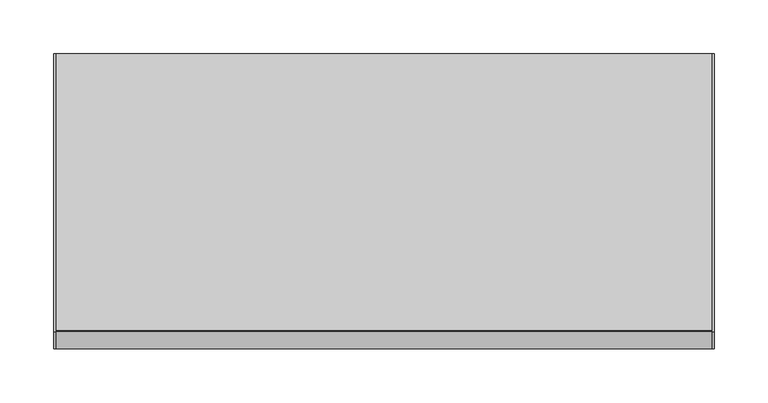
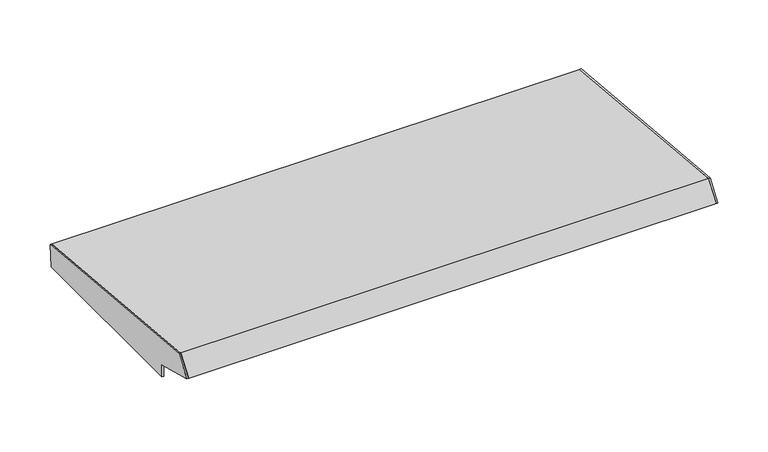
"""IFC4 building model written with IfcOpenShell, lengths in millimetres: electric distribution board geometry, DKC_Защитный козырек : DKC_Защитный козырек."""

import ifcopenshell
import ifcopenshell.guid

model = None  # the IFC model being written
_history = None  # IfcOwnerHistory: only IFC2X3 demands one
_inside = {}  # id of a spatial element -> (the spatial element, [elements in it])
_under = {}  # id of a project, library or spatial element -> (it, [spatial elements below it])
_declared = {}  # id of a project -> (the project, [libraries it declares])
_typed = {}  # id of a type object -> (the type object, [elements of that type])
_made_of = {}  # id of a material, layer set ... -> (it, [elements and type objects made of it])


def new_model(schema):
    """Start an empty IFC model of exactly this schema.

    Asked for "IFC4X3", IfcOpenShell would pick the latest addendum, in which some entities
    have other attributes; the version numbers below select the first issue.
    IFC2X3 requires an IfcOwnerHistory on every rooted entity: one is made here for all.
    """
    global model, _history
    if schema == "IFC4X3":
        model = ifcopenshell.file(schema_version=(4, 3, 0, 0))
    else:
        model = ifcopenshell.file(schema=schema)
    _inside.clear()
    _under.clear()
    _declared.clear()
    _typed.clear()
    _made_of.clear()
    _history = None
    if model.schema == "IFC2X3":
        org = make("IfcOrganization", Name="unknown")
        user = make(
            "IfcPersonAndOrganization",
            ThePerson=make("IfcPerson", FamilyName="unknown"),
            TheOrganization=org,
        )
        app = make(
            "IfcApplication",
            ApplicationDeveloper=org,
            Version="unknown",
            ApplicationFullName="unknown",
            ApplicationIdentifier="unknown",
        )
        _history = make(
            "IfcOwnerHistory",
            OwningUser=user,
            OwningApplication=app,
            ChangeAction="ADDED",
            CreationDate=0,
        )
    return model


def make(cls, **values):
    """One entity of the class cls with the attributes given. An attribute that is None is left unset."""
    return model.create_entity(
        cls, **{name: value for name, value in values.items() if value is not None}
    )


def rooted(cls, **values):
    """An entity with a GlobalId (a new one), such as an element, a storey or a relation."""
    return make(cls, GlobalId=ifcopenshell.guid.new(), OwnerHistory=_history, **values)


def si_unit(unit_type, name, prefix=None):
    """IfcSIUnit, for example si_unit("LENGTHUNIT", "METRE", prefix="MILLI")."""
    return make("IfcSIUnit", UnitType=unit_type, Prefix=prefix, Name=name)


def assignment(units):
    """IfcUnitAssignment: the units of a project."""
    return None if units is None else make("IfcUnitAssignment", Units=units)


def point(xyz):
    """IfcCartesianPoint."""
    return None if xyz is None else make("IfcCartesianPoint", Coordinates=xyz)


def direction(xyz):
    """IfcDirection."""
    return None if xyz is None else make("IfcDirection", DirectionRatios=xyz)


def frame(location, z_axis=None, x_axis=None):
    """IfcAxis2Placement3D, a coordinate frame: its origin and axes. An axis left out is left unset."""
    return make(
        "IfcAxis2Placement3D",
        Location=point(location),
        Axis=direction(z_axis),
        RefDirection=direction(x_axis),
    )


def origin():
    """The frame at (0, 0, 0) with its axes left unset."""
    return frame((0.0, 0.0, 0.0))


def place(relative_to, where):
    """IfcLocalPlacement: puts the frame where relative to a parent placement (None: the world)."""
    return make(
        "IfcLocalPlacement", PlacementRelTo=relative_to, RelativePlacement=where
    )


def context(
    kind, dimensions, precision=None, world=None, true_north=None, identifier=None
):
    """IfcGeometricRepresentationContext, for example the 3D "Model" context."""
    return make(
        "IfcGeometricRepresentationContext",
        ContextIdentifier=identifier,
        ContextType=kind,
        CoordinateSpaceDimension=dimensions,
        Precision=precision,
        WorldCoordinateSystem=world,
        TrueNorth=true_north,
    )


def project(units=None, contexts=None):
    """IfcProject with its units and contexts."""
    return rooted(
        "IfcProject",
        Name="project",
        RepresentationContexts=contexts,
        UnitsInContext=assignment(units),
    )


def spatial(cls, under=None, at=None, **own):
    """A site, building, storey or space (cls), placed at a placement, below another one or the project."""
    s = rooted(cls, ObjectPlacement=at, **own)
    if under is not None:
        _under.setdefault(under.id(), (under, []))[1].append(s)
    return s


def polyline(points):
    """IfcPolyline through the points."""
    return make("IfcPolyline", Points=[point(p) for p in points])


def outline(outer, holes=None, kind="AREA"):
    """IfcArbitraryClosedProfileDef: a profile drawn as a closed curve; with holes, ...WithVoids."""
    if holes is None:
        return make("IfcArbitraryClosedProfileDef", ProfileType=kind, OuterCurve=outer)
    return make(
        "IfcArbitraryProfileDefWithVoids",
        ProfileType=kind,
        OuterCurve=outer,
        InnerCurves=holes,
    )


def extrude(swept, where, along, depth):
    """IfcExtrudedAreaSolid: the profile swept, set in the frame where, extruded along a direction by depth."""
    return make(
        "IfcExtrudedAreaSolid",
        SweptArea=swept,
        Position=where,
        ExtrudedDirection=direction(along),
        Depth=depth,
    )


def shape(context_of_items, identifier, shape_type, items):
    """IfcShapeRepresentation: the items that make up one representation, for example the "Body"."""
    return make(
        "IfcShapeRepresentation",
        ContextOfItems=context_of_items,
        RepresentationIdentifier=identifier,
        RepresentationType=shape_type,
        Items=items,
    )


def source(mapping_origin, context_of_items, identifier, shape_type, items):
    """IfcRepresentationMap: a shape defined once, which mapped items show again and again."""
    return make(
        "IfcRepresentationMap",
        MappingOrigin=mapping_origin,
        MappedRepresentation=shape(context_of_items, identifier, shape_type, items),
    )


def transform(
    local_origin,
    x_axis=None,
    y_axis=None,
    z_axis=None,
    scale=None,
    scale2=None,
    scale3=None,
    uniform=True,
):
    """IfcCartesianTransformationOperator3D, or its non-uniform kind. x_axis, y_axis, z_axis: its Axis1, 2, 3."""
    if uniform:
        return make(
            "IfcCartesianTransformationOperator3D",
            Axis1=direction(x_axis),
            Axis2=direction(y_axis),
            LocalOrigin=point(local_origin),
            Scale=scale,
            Axis3=direction(z_axis),
        )
    return make(
        "IfcCartesianTransformationOperator3DnonUniform",
        Axis1=direction(x_axis),
        Axis2=direction(y_axis),
        LocalOrigin=point(local_origin),
        Scale=scale,
        Axis3=direction(z_axis),
        Scale2=scale2,
        Scale3=scale3,
    )


def mapped(mapping_source, mapping_target):
    """IfcMappedItem: shows the shape of a source again, moved by a transform."""
    return make(
        "IfcMappedItem", MappingSource=mapping_source, MappingTarget=mapping_target
    )


def made_of(thing, what):
    """Note that an element or type object is made of a material, layer set ...; save() writes the relation."""
    if what is not None:
        _made_of.setdefault(what.id(), (what, []))[1].append(thing)
    return thing


def element(
    cls,
    number,
    at=None,
    inside=None,
    cuts=None,
    type_object=None,
    material=None,
    context=None,
    identifier="Body",
    shape_type=None,
    held_by="IfcProductDefinitionShape",
    body=None,
    shapes=None,
    **own,
):
    """One element of the class cls, such as IfcWall. Its Tag is "e" and its number.

    at: its placement. inside: the storey or other place that contains it. cuts: it is an
    opening in that element (IfcRelVoidsElement). A single representation is given by context,
    identifier, shape_type and body (its items); several are given by shapes. held_by: the class
    of the entity that holds the representations. save() writes the other relations.
    """
    e = rooted(cls, Tag="e%d" % number, ObjectPlacement=at, **own)
    if body is not None:
        shapes = [shape(context, identifier, shape_type, body)]
    if shapes is not None:
        e.Representation = make(held_by, Representations=shapes)
    if inside is not None:
        _inside.setdefault(inside.id(), (inside, []))[1].append(e)
    if cuts is not None:
        rooted(
            "IfcRelVoidsElement", RelatingBuildingElement=cuts, RelatedOpeningElement=e
        )
    if type_object is not None:
        _typed.setdefault(type_object.id(), (type_object, []))[1].append(e)
    return made_of(e, material)


def aggregate(whole, parts):
    """IfcRelAggregates: a whole, such as a stair, and the parts it consists of."""
    return rooted("IfcRelAggregates", RelatingObject=whole, RelatedObjects=parts)


def save(model, path):
    """Write the relations noted so far, then the file.

    IfcRelAggregates (storeys below a building ...), IfcRelContainedInSpatialStructure (elements
    in a storey), IfcRelDefinesByType, IfcRelAssociatesMaterial and IfcRelDeclares: one each for
    every whole, place, type object, material and project.
    """
    for whole, parts in _under.values():
        aggregate(whole, parts)
    for where, things in _inside.values():
        rooted(
            "IfcRelContainedInSpatialStructure",
            RelatedElements=things,
            RelatingStructure=where,
        )
    for kind, things in _typed.values():
        rooted("IfcRelDefinesByType", RelatedObjects=things, RelatingType=kind)
    for what, things in _made_of.values():
        rooted("IfcRelAssociatesMaterial", RelatedObjects=things, RelatingMaterial=what)
    for by, libraries in _declared.values():
        rooted("IfcRelDeclares", RelatingContext=by, RelatedDefinitions=libraries)
    model.write(path)


def electric_distribution_board_608f02f3(model_context):
    return source(origin(), model_context, "Body", "SweptSolid", [
        extrude(outline(polyline([(-270.6496972, 13.4574155), (-254.7934442, 34.6387797), (-254.0790663, 33.9244018), (-269.8491574, 12.8581358), (-270.6496972, 13.4574155)])), frame((-304.0, 0.0, 0.0), z_axis=(1.0, 0.0, 0.0), x_axis=(0.0, 1.0, 0.0)), (0.0, 0.0, 1.0), 608.0),
        extrude(outline(polyline([(-254.8796061, 34.5236815), (2.4930786, 11.6427322), (0.0, -14.2375), (-1.0046292, -14.2375), (1.4010899, 10.7358682), (-254.2537834, 33.4641006), (-254.8796061, 34.5236815)])), frame((-304.0, 0.0, 0.0), z_axis=(1.0, 0.0, 0.0), x_axis=(0.0, 1.0, 0.0)), (0.0, 0.0, 1.0), 608.0),
        extrude(outline(polyline([(0.0, -14.2375), (-220.79753, -14.2375), (-220.79753, 0.0), (-270.6496972, 13.4574155), (-254.8796061, 34.5236815), (2.4930786, 11.6427322), (0.0, -14.2375)])), frame((-306.0, 0.0, 0.0), z_axis=(1.0, 0.0, 0.0), x_axis=(0.0, 1.0, 0.0)), (0.0, 0.0, 1.0), 2.0),
        extrude(outline(polyline([(0.0, -14.2375), (-220.79753, -14.2375), (-220.79753, 0.0), (-270.6496972, 13.4574155), (-254.8796061, 34.5236815), (2.4930786, 11.6427322), (0.0, -14.2375)])), frame((304.0, 0.0, 0.0), z_axis=(1.0, 0.0, 0.0), x_axis=(0.0, 1.0, 0.0)), (0.0, 0.0, 1.0), 2.0),
    ])


if __name__ == "__main__":
    model = new_model("IFC4")
    model_context = context("Model", 3, world=origin())
    ifc_project = project(units=[si_unit("LENGTHUNIT", "METRE", prefix="MILLI")], contexts=[model_context])
    site = spatial("IfcSite", under=ifc_project)
    building = spatial("IfcBuilding", under=site)
    placement = place(None, origin())
    electric_distribution_board_shape = electric_distribution_board_608f02f3(model_context)
    element("IfcElectricDistributionBoard", 1, ObjectType="DKC_Защитный козырек : DKC_Защитный козырек", at=placement, inside=building, context=model_context, shape_type="MappedRepresentation", body=[
        mapped(electric_distribution_board_shape, transform((0.0, 0.0, 0.0), x_axis=(1.0, 0.0, 0.0), y_axis=(0.0, 1.0, 0.0), z_axis=(0.0, 0.0, 1.0))),
    ])
    save(model, "model.ifc")
